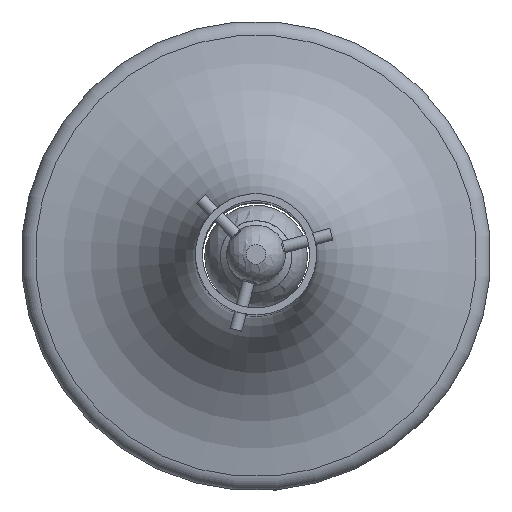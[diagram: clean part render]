
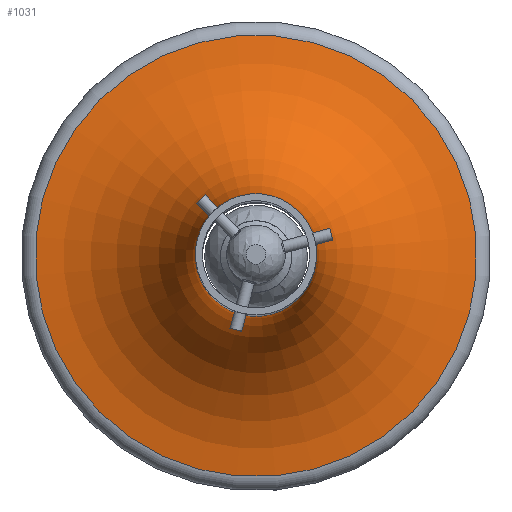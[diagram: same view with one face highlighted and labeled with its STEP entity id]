
A CAD part, top view. The second image highlights one B-rep face of the part: STEP entity #1031.
In plain terms, the highlighted toroidal (fillet/blend) face has major radius 77 mm and minor radius 57 mm.
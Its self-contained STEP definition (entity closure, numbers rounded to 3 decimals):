
#124=TOROIDAL_SURFACE('',#1308,77.,57.);
#259=FACE_OUTER_BOUND('',#326,.T.);
#326=EDGE_LOOP('',(#937,#938,#939,#940,#941,#942));
#413=CIRCLE('',#1299,72.863);
#415=CIRCLE('',#1301,72.863);
#420=CIRCLE('',#1309,57.);
#421=CIRCLE('',#1310,20.);
#422=CIRCLE('',#1311,20.);
#521=VERTEX_POINT('',#2296);
#522=VERTEX_POINT('',#2297);
#526=VERTEX_POINT('',#2312);
#527=VERTEX_POINT('',#2314);
#659=EDGE_CURVE('',#521,#522,#413,.T.);
#661=EDGE_CURVE('',#522,#521,#415,.T.);
#667=EDGE_CURVE('',#521,#526,#420,.T.);
#668=EDGE_CURVE('',#526,#527,#421,.T.);
#669=EDGE_CURVE('',#527,#526,#422,.T.);
#937=ORIENTED_EDGE('',*,*,#659,.F.);
#938=ORIENTED_EDGE('',*,*,#667,.T.);
#939=ORIENTED_EDGE('',*,*,#668,.T.);
#940=ORIENTED_EDGE('',*,*,#669,.T.);
#941=ORIENTED_EDGE('',*,*,#667,.F.);
#942=ORIENTED_EDGE('',*,*,#661,.F.);
#1031=ADVANCED_FACE('',(#259),#124,.F.);
#1299=AXIS2_PLACEMENT_3D('',#2298,#1631,#1632);
#1301=AXIS2_PLACEMENT_3D('',#2300,#1635,#1636);
#1308=AXIS2_PLACEMENT_3D('',#2311,#1650,#1651);
#1309=AXIS2_PLACEMENT_3D('',#2313,#1652,#1653);
#1310=AXIS2_PLACEMENT_3D('',#2315,#1654,#1655);
#1311=AXIS2_PLACEMENT_3D('',#2316,#1656,#1657);
#1631=DIRECTION('center_axis',(0.,-1.,0.));
#1632=DIRECTION('ref_axis',(-1.,0.,0.));
#1635=DIRECTION('center_axis',(0.,-1.,0.));
#1636=DIRECTION('ref_axis',(-1.,0.,0.));
#1650=DIRECTION('center_axis',(0.,-1.,0.));
#1651=DIRECTION('ref_axis',(0.,0.,-1.));
#1652=DIRECTION('center_axis',(1.,0.,0.));
#1653=DIRECTION('ref_axis',(0.,0.,1.));
#1654=DIRECTION('center_axis',(0.,-1.,0.));
#1655=DIRECTION('ref_axis',(1.,0.,0.));
#1656=DIRECTION('center_axis',(0.,-1.,0.));
#1657=DIRECTION('ref_axis',(1.,0.,0.));
#2296=CARTESIAN_POINT('',(0.,5.15,72.863));
#2297=CARTESIAN_POINT('',(72.863,5.15,0.));
#2298=CARTESIAN_POINT('Origin',(0.,5.15,0.));
#2300=CARTESIAN_POINT('Origin',(0.,5.15,0.));
#2311=CARTESIAN_POINT('Origin',(0.,62.,0.));
#2312=CARTESIAN_POINT('',(0.,62.,20.));
#2313=CARTESIAN_POINT('Origin',(0.,62.,77.));
#2314=CARTESIAN_POINT('',(-20.,62.,0.));
#2315=CARTESIAN_POINT('Origin',(0.,62.,0.));
#2316=CARTESIAN_POINT('Origin',(0.,62.,0.));
